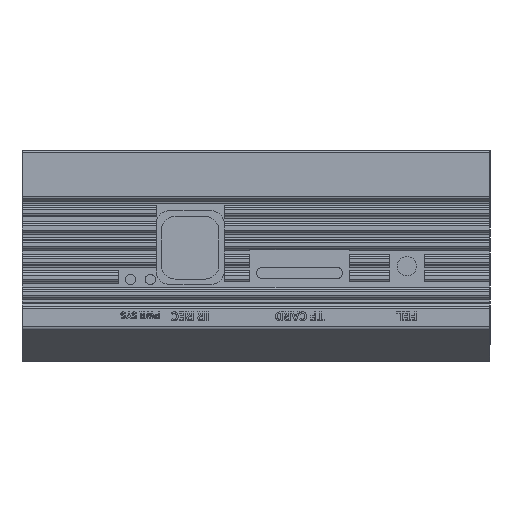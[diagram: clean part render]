
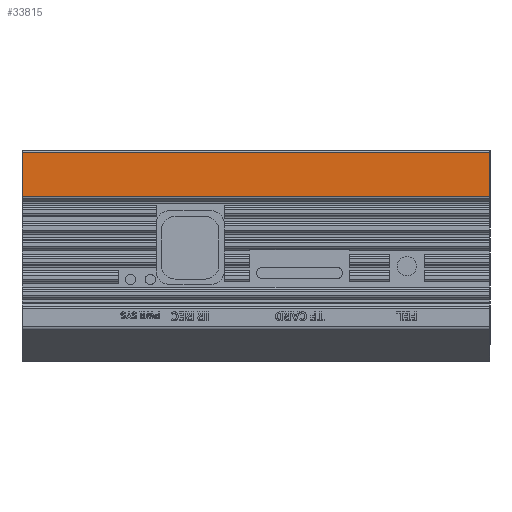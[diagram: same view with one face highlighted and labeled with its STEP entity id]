
A CAD part, left-side view. The second image highlights one B-rep face of the part: STEP entity #33815.
In plain terms, the highlighted planar face has unit normal (-1, 0, 0).
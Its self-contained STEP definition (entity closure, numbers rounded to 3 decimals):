
#1705 = PLANE ( 'NONE',  #29200 ) ;
#1871 = VECTOR ( 'NONE', #10346, 1000. ) ;
#2451 = CARTESIAN_POINT ( 'NONE',  ( -34., -0.93, 21.78 ) ) ;
#3057 = DIRECTION ( 'NONE',  ( 1., 0., 0. ) ) ;
#5585 = CARTESIAN_POINT ( 'NONE',  ( -34., 67.62, 14.941 ) ) ;
#5714 = DIRECTION ( 'NONE',  ( 0., 0., -1. ) ) ;
#6731 = VECTOR ( 'NONE', #10940, 1000. ) ;
#7921 = LINE ( 'NONE', #2451, #9450 ) ;
#8157 = EDGE_CURVE ( 'NONE', #9155, #22091, #23724, .T. ) ;
#8479 = LINE ( 'NONE', #27264, #6731 ) ;
#9155 = VERTEX_POINT ( 'NONE', #27059 ) ;
#9450 = VECTOR ( 'NONE', #18122, 1000. ) ;
#10346 = DIRECTION ( 'NONE',  ( 0., 1., 0. ) ) ;
#10864 = VERTEX_POINT ( 'NONE', #34467 ) ;
#10905 = VERTEX_POINT ( 'NONE', #14270 ) ;
#10940 = DIRECTION ( 'NONE',  ( 0., 0., 1. ) ) ;
#12435 = CARTESIAN_POINT ( 'NONE',  ( -34., 67., 21.78 ) ) ;
#13678 = LINE ( 'NONE', #27737, #31390 ) ;
#14270 = CARTESIAN_POINT ( 'NONE',  ( -34., 67.62, 21.48 ) ) ;
#14799 = ORIENTED_EDGE ( 'NONE', *, *, #25206, .T. ) ;
#18122 = DIRECTION ( 'NONE',  ( 0., 0., -1. ) ) ;
#22091 = VERTEX_POINT ( 'NONE', #5585 ) ;
#22526 = EDGE_CURVE ( 'NONE', #10864, #9155, #7921, .T. ) ;
#23724 = LINE ( 'NONE', #34389, #1871 ) ;
#24430 = DIRECTION ( 'NONE',  ( 0., 1., 0. ) ) ;
#25206 = EDGE_CURVE ( 'NONE', #10864, #10905, #13678, .T. ) ;
#25808 = FACE_OUTER_BOUND ( 'NONE', #32500, .T. ) ;
#27059 = CARTESIAN_POINT ( 'NONE',  ( -34., -0.93, 14.941 ) ) ;
#27077 = ORIENTED_EDGE ( 'NONE', *, *, #8157, .F. ) ;
#27264 = CARTESIAN_POINT ( 'NONE',  ( -34., 67.62, 14.941 ) ) ;
#27737 = CARTESIAN_POINT ( 'NONE',  ( -34., 67., 21.48 ) ) ;
#28657 = ORIENTED_EDGE ( 'NONE', *, *, #33145, .F. ) ;
#28998 = ORIENTED_EDGE ( 'NONE', *, *, #22526, .F. ) ;
#29200 = AXIS2_PLACEMENT_3D ( 'NONE', #12435, #3057, #5714 ) ;
#31390 = VECTOR ( 'NONE', #24430, 1000. ) ;
#32500 = EDGE_LOOP ( 'NONE', ( #28998, #14799, #28657, #27077 ) ) ;
#33145 = EDGE_CURVE ( 'NONE', #22091, #10905, #8479, .T. ) ;
#33815 = ADVANCED_FACE ( 'NONE', ( #25808 ), #1705, .F. ) ;
#34389 = CARTESIAN_POINT ( 'NONE',  ( -34., -2.325, 14.941 ) ) ;
#34467 = CARTESIAN_POINT ( 'NONE',  ( -34., -0.93, 21.48 ) ) ;
